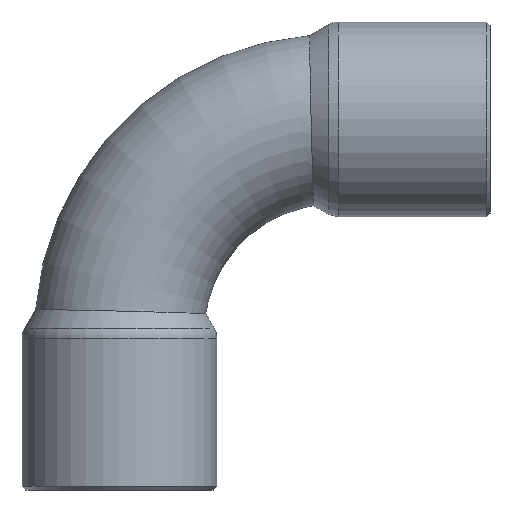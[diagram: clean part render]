
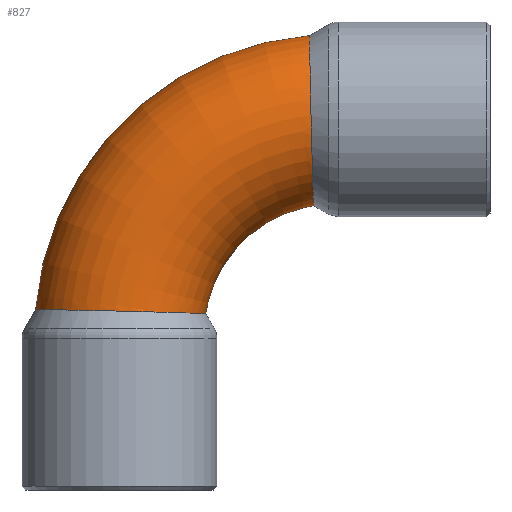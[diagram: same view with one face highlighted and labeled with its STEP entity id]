
A CAD part, left-side view. The second image highlights one B-rep face of the part: STEP entity #827.
In plain terms, the highlighted toroidal (fillet/blend) face has major radius 12 mm and minor radius 4.76 mm.
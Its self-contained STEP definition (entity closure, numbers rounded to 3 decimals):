
#444=CARTESIAN_POINT('',(0.,1.334,16.707));
#445=VERTEX_POINT('',#444);
#446=CARTESIAN_POINT('',(0.,1.334,16.707));
#447=CARTESIAN_POINT('',(0.456,1.334,16.707));
#448=CARTESIAN_POINT('',(0.909,1.333,16.641));
#449=CARTESIAN_POINT('',(1.77,1.329,16.387));
#450=CARTESIAN_POINT('',(2.175,1.326,16.203));
#451=CARTESIAN_POINT('',(3.08,1.316,15.628));
#452=CARTESIAN_POINT('',(3.54,1.308,15.188));
#453=CARTESIAN_POINT('',(4.261,1.289,14.154));
#454=CARTESIAN_POINT('',(4.516,1.278,13.57));
#455=CARTESIAN_POINT('',(4.785,1.251,12.336));
#456=CARTESIAN_POINT('',(4.796,1.236,11.698));
#457=CARTESIAN_POINT('',(4.567,1.205,10.446));
#458=CARTESIAN_POINT('',(4.327,1.188,9.846));
#459=CARTESIAN_POINT('',(3.653,1.157,8.816));
#460=CARTESIAN_POINT('',(3.241,1.142,8.387));
#461=CARTESIAN_POINT('',(2.247,1.117,7.676));
#462=CARTESIAN_POINT('',(1.666,1.107,7.414));
#463=CARTESIAN_POINT('',(0.738,1.099,7.203));
#464=CARTESIAN_POINT('',(0.419,1.098,7.164));
#465=CARTESIAN_POINT('',(-0.203,1.097,7.151));
#466=CARTESIAN_POINT('',(-0.505,1.098,7.174));
#467=CARTESIAN_POINT('',(-1.309,1.103,7.312));
#468=CARTESIAN_POINT('',(-1.798,1.11,7.481));
#469=CARTESIAN_POINT('',(-2.804,1.13,8.024));
#470=CARTESIAN_POINT('',(-3.294,1.144,8.429));
#471=CARTESIAN_POINT('',(-4.072,1.174,9.389));
#472=CARTESIAN_POINT('',(-4.361,1.19,9.929));
#473=CARTESIAN_POINT('',(-4.718,1.221,11.07));
#474=CARTESIAN_POINT('',(-4.788,1.235,11.66));
#475=CARTESIAN_POINT('',(-4.711,1.262,12.834));
#476=CARTESIAN_POINT('',(-4.566,1.274,13.408));
#477=CARTESIAN_POINT('',(-4.071,1.295,14.479));
#478=CARTESIAN_POINT('',(-3.724,1.304,14.966));
#479=CARTESIAN_POINT('',(-2.863,1.319,15.796));
#480=CARTESIAN_POINT('',(-2.353,1.325,16.127));
#481=CARTESIAN_POINT('',(-1.225,1.332,16.587));
#482=CARTESIAN_POINT('',(-0.615,1.334,16.707));
#483=CARTESIAN_POINT('',(0.,1.334,16.707));
#484=B_SPLINE_CURVE_WITH_KNOTS('',3,(#446,#447,#448,#449,#450,#451,#452,#453,#454,#455,#456,#457,#458,#459,#460,#461,#462,#463,#464,#465,#466,#467,#468,#469,#470,#471,#472,#473,#474,#475,#476,#477,#478,#479,#480,#481,#482,#483),.UNSPECIFIED.,.T.,.U.,(4,2,2,2,2,2,2,2,2,2,2,2,2,2,2,2,2,2,4),(-3.004,-2.867,-2.735,-2.546,-2.356,-2.167,-1.975,-1.797,-1.608,-1.512,-1.421,-1.267,-1.078,-0.896,-0.719,-0.543,-0.365,-0.185,0.0),.UNSPECIFIED.);
#485=EDGE_CURVE('',#445,#445,#484,.T.);
#686=CARTESIAN_POINT('',(0.,16.707,1.334));
#687=VERTEX_POINT('',#686);
#688=CARTESIAN_POINT('',(0.,16.707,1.334));
#689=CARTESIAN_POINT('',(-0.456,16.707,1.334));
#690=CARTESIAN_POINT('',(-0.909,16.641,1.333));
#691=CARTESIAN_POINT('',(-1.77,16.387,1.329));
#692=CARTESIAN_POINT('',(-2.175,16.203,1.326));
#693=CARTESIAN_POINT('',(-3.08,15.628,1.316));
#694=CARTESIAN_POINT('',(-3.54,15.188,1.308));
#695=CARTESIAN_POINT('',(-4.261,14.154,1.289));
#696=CARTESIAN_POINT('',(-4.516,13.57,1.278));
#697=CARTESIAN_POINT('',(-4.785,12.336,1.251));
#698=CARTESIAN_POINT('',(-4.796,11.698,1.236));
#699=CARTESIAN_POINT('',(-4.567,10.446,1.205));
#700=CARTESIAN_POINT('',(-4.327,9.846,1.188));
#701=CARTESIAN_POINT('',(-3.653,8.816,1.157));
#702=CARTESIAN_POINT('',(-3.241,8.387,1.142));
#703=CARTESIAN_POINT('',(-2.247,7.676,1.117));
#704=CARTESIAN_POINT('',(-1.666,7.414,1.107));
#705=CARTESIAN_POINT('',(-0.738,7.203,1.099));
#706=CARTESIAN_POINT('',(-0.419,7.164,1.098));
#707=CARTESIAN_POINT('',(0.203,7.151,1.097));
#708=CARTESIAN_POINT('',(0.505,7.174,1.098));
#709=CARTESIAN_POINT('',(1.309,7.312,1.103));
#710=CARTESIAN_POINT('',(1.798,7.481,1.11));
#711=CARTESIAN_POINT('',(2.804,8.024,1.13));
#712=CARTESIAN_POINT('',(3.294,8.429,1.144));
#713=CARTESIAN_POINT('',(4.072,9.389,1.174));
#714=CARTESIAN_POINT('',(4.361,9.929,1.19));
#715=CARTESIAN_POINT('',(4.718,11.07,1.221));
#716=CARTESIAN_POINT('',(4.788,11.66,1.235));
#717=CARTESIAN_POINT('',(4.711,12.834,1.262));
#718=CARTESIAN_POINT('',(4.566,13.408,1.274));
#719=CARTESIAN_POINT('',(4.071,14.479,1.295));
#720=CARTESIAN_POINT('',(3.724,14.966,1.304));
#721=CARTESIAN_POINT('',(2.863,15.796,1.319));
#722=CARTESIAN_POINT('',(2.353,16.127,1.325));
#723=CARTESIAN_POINT('',(1.225,16.587,1.332));
#724=CARTESIAN_POINT('',(0.615,16.707,1.334));
#725=CARTESIAN_POINT('',(0.,16.707,1.334));
#726=B_SPLINE_CURVE_WITH_KNOTS('',3,(#688,#689,#690,#691,#692,#693,#694,#695,#696,#697,#698,#699,#700,#701,#702,#703,#704,#705,#706,#707,#708,#709,#710,#711,#712,#713,#714,#715,#716,#717,#718,#719,#720,#721,#722,#723,#724,#725),.UNSPECIFIED.,.T.,.U.,(4,2,2,2,2,2,2,2,2,2,2,2,2,2,2,2,2,2,4),(-3.004,-2.867,-2.735,-2.546,-2.356,-2.167,-1.975,-1.797,-1.608,-1.512,-1.421,-1.267,-1.078,-0.896,-0.719,-0.543,-0.365,-0.185,0.0),.UNSPECIFIED.);
#727=EDGE_CURVE('',#687,#687,#726,.T.);
#816=CARTESIAN_POINT('',(0.0,0.0,0.0));
#817=DIRECTION('',(1.0,0.0,0.0));
#818=DIRECTION('',(0.0,0.0,-1.0));
#819=AXIS2_PLACEMENT_3D('',#816,#817,#818);
#820=TOROIDAL_SURFACE('',#819,12.,4.76);
#821=ORIENTED_EDGE('',*,*,#485,.T.);
#822=EDGE_LOOP('',(#821));
#823=FACE_OUTER_BOUND('',#822,.T.);
#824=ORIENTED_EDGE('',*,*,#727,.T.);
#825=EDGE_LOOP('',(#824));
#826=FACE_BOUND('',#825,.T.);
#827=ADVANCED_FACE('',(#823,#826),#820,.T.);
